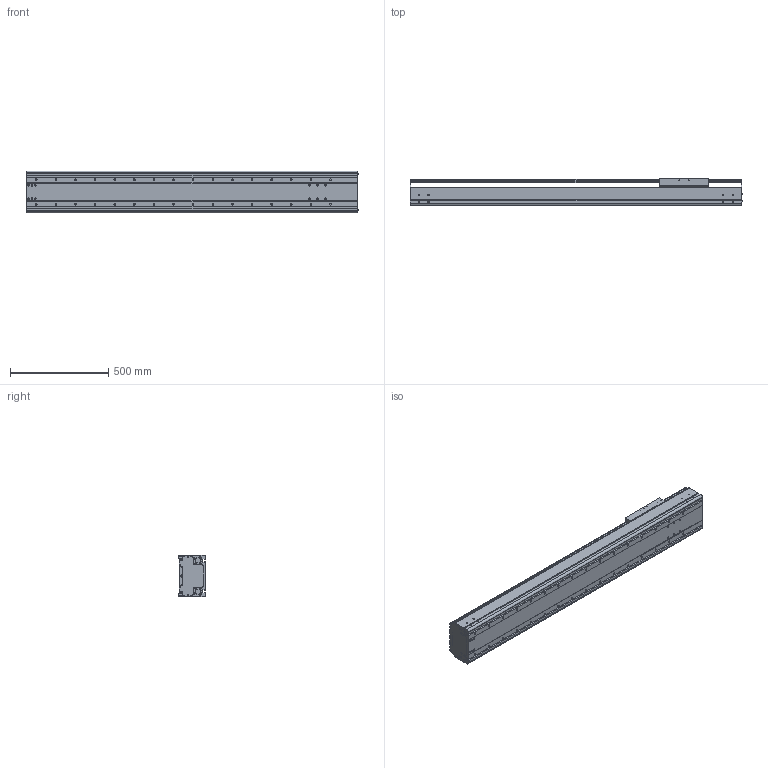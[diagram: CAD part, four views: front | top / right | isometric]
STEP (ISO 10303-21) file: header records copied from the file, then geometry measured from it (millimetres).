
FILE_DESCRIPTION((''),'2;1');
FILE_NAME('BE60J-ST-M_N-C0_IGS_PRT','2017-06-18T',(' '),(''),'PRO/ENGINEER BY PARAMETRIC TECHNOLOGY CORPORATION, 2015030','PRO/ENGINEER BY PARAMETRIC TECHNOLOGY CORPORATION, 2015030','');
FILE_SCHEMA(('CONFIG_CONTROL_DESIGN'));
Length unit declared in the file: millimetre
Products named in the file (1): BE60J-ST-M_N-C0_IGS_PRT
Bounding box: 1692.4 x 140 x 214 mm (x, y, z)
Volume: 12924586.8 mm3; surface area: 3546599 mm2
Topology: 2 solids, 122 shells, 1489 faces, 4198 edges, 2806 vertices
Faces by surface type: cylinder 778, plane 611, cone 52, sphere 24, torus 24
Entity records: 50317 total; most frequent: CARTESIAN_POINT 11288, DIRECTION 8126, ORIENTED_EDGE 7828, EDGE_CURVE 4150, AXIS2_PLACEMENT_3D 3030, VERTEX_POINT 2806, VECTOR 2066, LINE 2066
